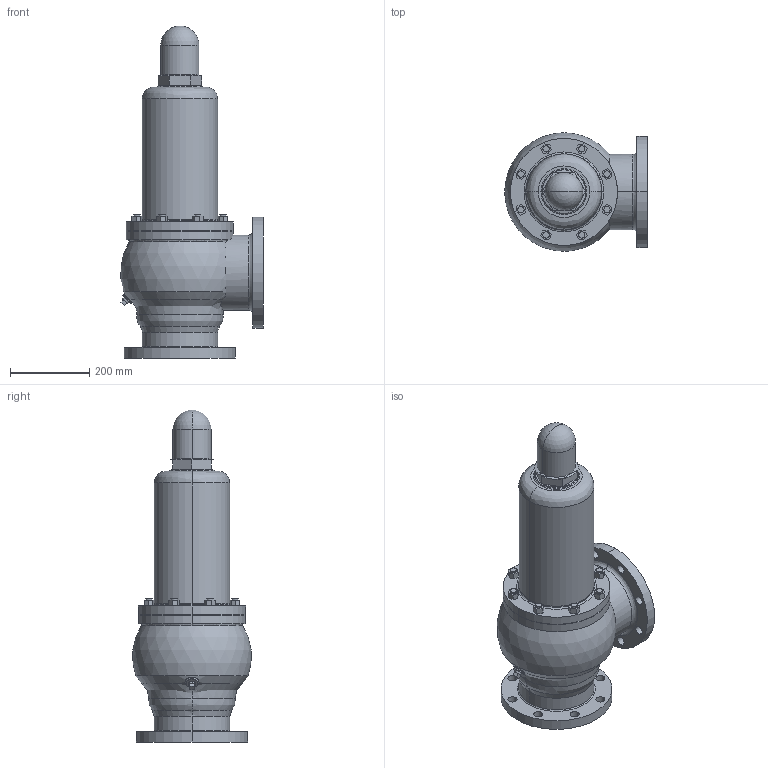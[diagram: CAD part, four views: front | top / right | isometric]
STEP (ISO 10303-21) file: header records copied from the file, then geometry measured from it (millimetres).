
FILE_DESCRIPTION( (''), '2;1');
FILE_NAME ('PC1027.9568.AL-4 150A(JIS 10K)_2328.stp','2025-07-28T13:10:35',(''),(''),'spGate 19.8.4 (****-****-****-****)','','');
FILE_SCHEMA (('AUTOMOTIVE_DESIGN'));
Length unit declared in the file: millimetre
Products named in the file (3): Assembly; 3D 150A; プラグ
Assembly tree (2 placements, depth 2):
  Assembly
    3D 150A
    プラグ
Bounding box: 359.18 x 297.83 x 837 mm (x, y, z)
Volume: 30602323.8 mm3; surface area: 899191.3 mm2
Topology: 2 solids, 2 shells, 215 faces, 504 edges, 317 vertices
Faces by surface type: plane 108, cylinder 78, bspline 26, sphere 3
Entity records: 11347 total; most frequent: CARTESIAN_POINT 2341, ORIENTED_EDGE 1004, DIRECTION 972, COLOUR_RGB 719, PRESENTATION_STYLE_ASSIGNMENT 719, STYLED_ITEM 719, EDGE_CURVE 502, DRAUGHTING_PRE_DEFINED_CURVE_FONT 502
